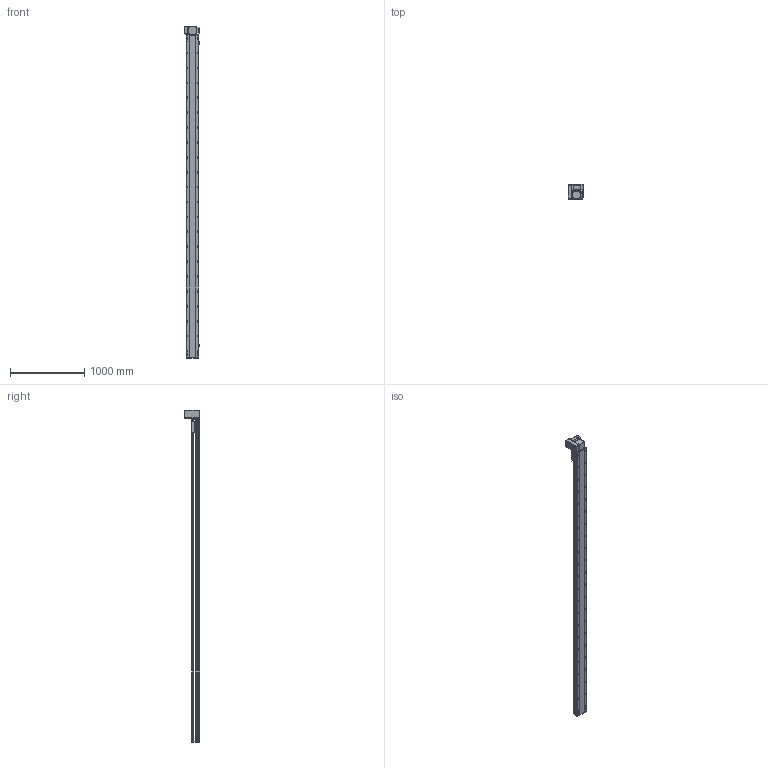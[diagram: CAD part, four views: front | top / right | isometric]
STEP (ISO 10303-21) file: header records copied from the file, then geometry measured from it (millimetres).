
FILE_DESCRIPTION (( 'STEP AP214' ), '1' );
FILE_NAME ('RTB17S-XX-4050-LW-M75-C4.STEP', '2025-12-12T01:26:14', ( '' ), ( '' ), 'SwSTEP 2.0', 'SolidWorks 2018', '' );
FILE_SCHEMA (( 'AUTOMOTIVE_DESIGN' ));
Length unit declared in the file: millimetre
Products named in the file (15): RTB22S-GY-017P^RTB17S-LW-々湍釱蚾饜-750W_RTB17S-XX-XX-LW-M75-C4; RTB17S-賑釱^RTB17S-XX-XX-LW-M75-C4; RTB22S-GY-005P^RTB17S-LW-々湍釱蚾饜-750W_RTB17S-XX-XX-LW-M75-C4; RTB17S-L-001-耜醱啣^RTB17S-XX-XX-LW-M75-C4; RTB17S-L-007奻裔^RTB17S-XX-XX-LW-M75-C4; RTB17S-L-014-T20-P75--々湍釱^RTB17S-LW-々湍釱蚾饜-750W_RTB17S-XX-XX-LW-M75-C4; RTH13-BL-012覜茼え俋离^RTB17S-賑釱_RTB17S-XX-XX-LW-M75-C4; RTB22S-GY-018P^RTB17S-LW-々湍釱蚾饜-750W_RTB17S-XX-XX-LW-M75-C4; RTB17S-L-004-賑釱^RTB17S-賑釱_RTB17S-XX-XX-LW-M75-C4; RTB22S-GY-008-M75--萇儂啣^RTB17S-LW-々湍釱蚾饜-750W_RTB17S-XX-XX-LW-M75-C4; 750W萇儂^RTB17S-XX-XX-LW-M75-C4; RTB17S-XX-4050-LW-M75-C4; EE672^RTB17S-XX-XX-LW-M75-C4; RTB17S-LW-々湍釱蚾饜-750W^RTB17S-XX-XX-LW-M75-C4; RTB17-R-011菁釱^RTB17S-XX-XX-LW-M75-C4
Assembly tree (17 placements, depth 3):
  RTB17S-XX-4050-LW-M75-C4
    RTB17-R-011菁釱^RTB17S-XX-XX-LW-M75-C4
    EE672^RTB17S-XX-XX-LW-M75-C4  x3
    RTB17S-L-001-耜醱啣^RTB17S-XX-XX-LW-M75-C4
    RTB17S-賑釱^RTB17S-XX-XX-LW-M75-C4
      RTB17S-L-004-賑釱^RTB17S-賑釱_RTB17S-XX-XX-LW-M75-C4
      RTH13-BL-012覜茼え俋离^RTB17S-賑釱_RTB17S-XX-XX-LW-M75-C4
    RTB17S-L-007奻裔^RTB17S-XX-XX-LW-M75-C4
    750W萇儂^RTB17S-XX-XX-LW-M75-C4
    RTB17S-LW-々湍釱蚾饜-750W^RTB17S-XX-XX-LW-M75-C4
      RTB17S-L-014-T20-P75--々湍釱^RTB17S-LW-々湍釱蚾饜-750W_RTB17S-XX-XX-LW-M75-C4
      RTB22S-GY-005P^RTB17S-LW-々湍釱蚾饜-750W_RTB17S-XX-XX-LW-M75-C4
      RTB22S-GY-017P^RTB17S-LW-々湍釱蚾饜-750W_RTB17S-XX-XX-LW-M75-C4  x2
      RTB22S-GY-008-M75--萇儂啣^RTB17S-LW-々湍釱蚾饜-750W_RTB17S-XX-XX-LW-M75-C4
      RTB22S-GY-018P^RTB17S-LW-々湍釱蚾饜-750W_RTB17S-XX-XX-LW-M75-C4
Bounding box: 210.4 x 201.5 x 4457.5 mm (x, y, z)
Volume: 31261931.3 mm3; surface area: 5819121.8 mm2
Topology: 17 solids, 17 shells, 2345 faces, 6646 edges, 4310 vertices
Faces by surface type: plane 1002, cylinder 927, bspline 294, cone 110, sphere 8, torus 4
Entity records: 70390 total; most frequent: CARTESIAN_POINT 21110, ORIENTED_EDGE 10136, DIRECTION 9302, EDGE_CURVE 5068, AXIS2_PLACEMENT_3D 3330, VERTEX_POINT 3314, VECTOR 2642, LINE 2642
